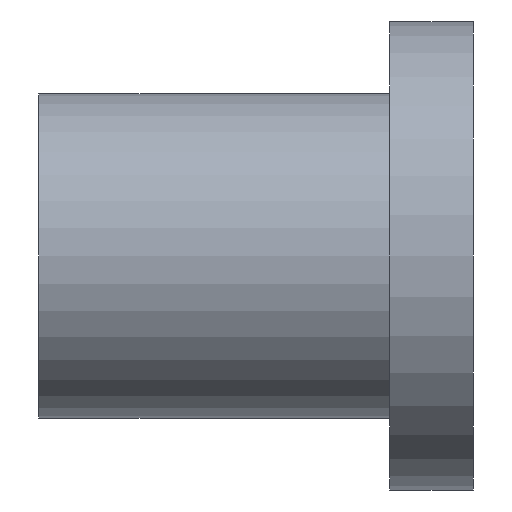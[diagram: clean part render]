
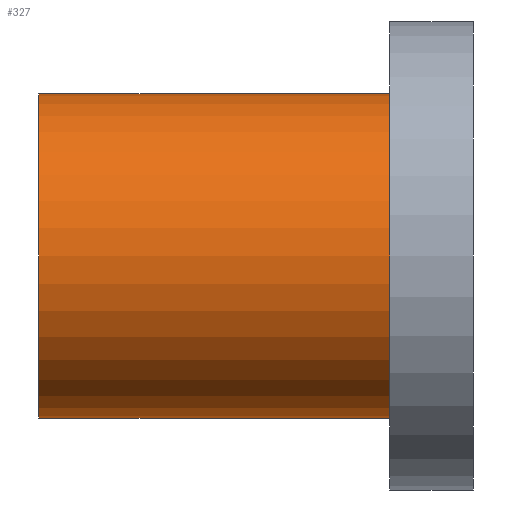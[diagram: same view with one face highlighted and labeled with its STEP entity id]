
A CAD part, front view. The second image highlights one B-rep face of the part: STEP entity #327.
In plain terms, the highlighted cylindrical face has radius 4.85 mm (diameter 9.7 mm), a partial arc.
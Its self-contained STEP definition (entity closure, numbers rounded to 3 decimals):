
#8 = DIRECTION ( 'NONE',  ( -1., 0., 0. ) ) ;
#10 = EDGE_LOOP ( 'NONE', ( #32, #209, #194, #359 ) ) ;
#16 = EDGE_CURVE ( 'NONE', #382, #468, #396, .T. ) ;
#17 = CARTESIAN_POINT ( 'NONE',  ( -10.5, 0., 0. ) ) ;
#32 = ORIENTED_EDGE ( 'NONE', *, *, #455, .F. ) ;
#41 = EDGE_CURVE ( 'NONE', #141, #468, #610, .T. ) ;
#58 = DIRECTION ( 'NONE',  ( 0., 0., 1. ) ) ;
#82 = CYLINDRICAL_SURFACE ( 'NONE', #352, 4.85 ) ;
#132 = CARTESIAN_POINT ( 'NONE',  ( 0., 0., 4.85 ) ) ;
#141 = VERTEX_POINT ( 'NONE', #150 ) ;
#150 = CARTESIAN_POINT ( 'NONE',  ( 0., 0., -4.85 ) ) ;
#191 = CARTESIAN_POINT ( 'NONE',  ( 0., 0., 0. ) ) ;
#194 = ORIENTED_EDGE ( 'NONE', *, *, #41, .T. ) ;
#199 = VECTOR ( 'NONE', #245, 1000. ) ;
#200 = DIRECTION ( 'NONE',  ( 0., 0., 1. ) ) ;
#209 = ORIENTED_EDGE ( 'NONE', *, *, #543, .T. ) ;
#232 = CARTESIAN_POINT ( 'NONE',  ( -10.5, 0., 0. ) ) ;
#236 = LINE ( 'NONE', #375, #590 ) ;
#245 = DIRECTION ( 'NONE',  ( 1., 0., 0. ) ) ;
#254 = CIRCLE ( 'NONE', #534, 4.85 ) ;
#280 = DIRECTION ( 'NONE',  ( 1., 0., 0. ) ) ;
#289 = DIRECTION ( 'NONE',  ( -1., 0., 0. ) ) ;
#327 = ADVANCED_FACE ( 'NONE', ( #433 ), #82, .T. ) ;
#344 = VERTEX_POINT ( 'NONE', #488 ) ;
#352 = AXIS2_PLACEMENT_3D ( 'NONE', #17, #567, #200 ) ;
#359 = ORIENTED_EDGE ( 'NONE', *, *, #16, .F. ) ;
#375 = CARTESIAN_POINT ( 'NONE',  ( -10.5, 0., -4.85 ) ) ;
#382 = VERTEX_POINT ( 'NONE', #482 ) ;
#396 = LINE ( 'NONE', #530, #199 ) ;
#433 = FACE_OUTER_BOUND ( 'NONE', #10, .T. ) ;
#455 = EDGE_CURVE ( 'NONE', #344, #382, #254, .T. ) ;
#468 = VERTEX_POINT ( 'NONE', #132 ) ;
#482 = CARTESIAN_POINT ( 'NONE',  ( -10.5, 0., 4.85 ) ) ;
#488 = CARTESIAN_POINT ( 'NONE',  ( -10.5, 0., -4.85 ) ) ;
#522 = DIRECTION ( 'NONE',  ( 0., 0., -1. ) ) ;
#530 = CARTESIAN_POINT ( 'NONE',  ( -10.5, 0., 4.85 ) ) ;
#534 = AXIS2_PLACEMENT_3D ( 'NONE', #232, #289, #522 ) ;
#543 = EDGE_CURVE ( 'NONE', #344, #141, #236, .T. ) ;
#554 = AXIS2_PLACEMENT_3D ( 'NONE', #191, #8, #58 ) ;
#567 = DIRECTION ( 'NONE',  ( 1., 0., 0. ) ) ;
#590 = VECTOR ( 'NONE', #280, 1000. ) ;
#610 = CIRCLE ( 'NONE', #554, 4.85 ) ;
